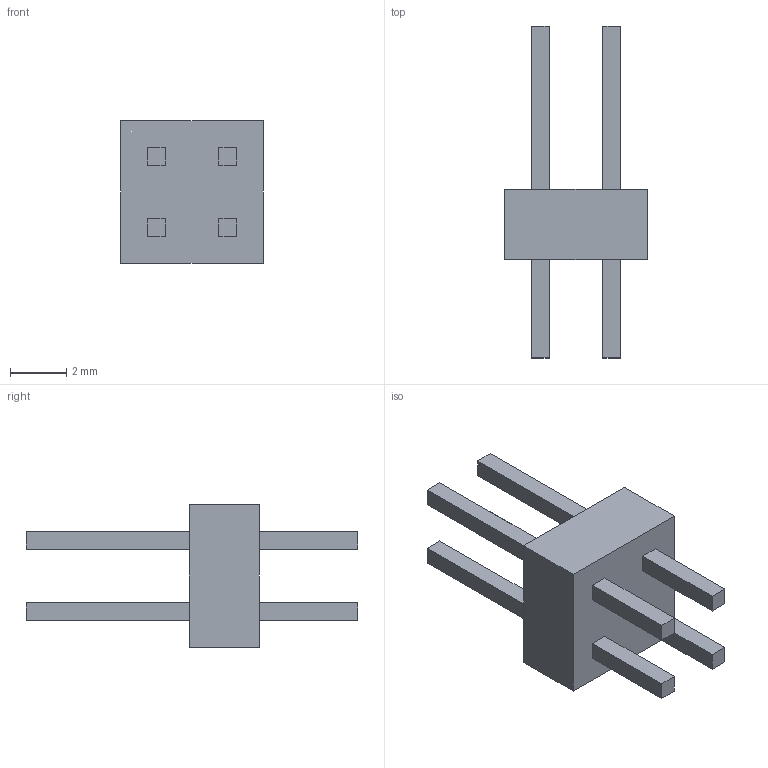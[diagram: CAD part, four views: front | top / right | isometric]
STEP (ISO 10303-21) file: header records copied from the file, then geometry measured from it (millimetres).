
FILE_DESCRIPTION(('Open CASCADE Model'),'2;1');
FILE_NAME('Open CASCADE Shape Model','2026-08-18T10:55:12',('Author'),( 'Open CASCADE'),'Open CASCADE STEP processor 7.9','Open CASCADE 7.9' ,'Unknown');
FILE_SCHEMA(('AUTOMOTIVE_DESIGN { 1 0 10303 214 1 1 1 1 }'));
Length unit declared in the file: millimetre
Products named in the file (1): poe_header
Bounding box: 5.08 x 11.8 x 5.08 mm (x, y, z)
Volume: 79.8 mm3; surface area: 197.6 mm2
Topology: 1 solids, 1 shells, 46 faces, 108 edges, 72 vertices
Faces by surface type: plane 46
Entity records: 2642 total; most frequent: CARTESIAN_POINT 507, DIRECTION 354, LINE 260, VECTOR 260, ORIENTED_EDGE 216, PCURVE 216, DEFINITIONAL_REPRESENTATION 216, EDGE_CURVE 108
